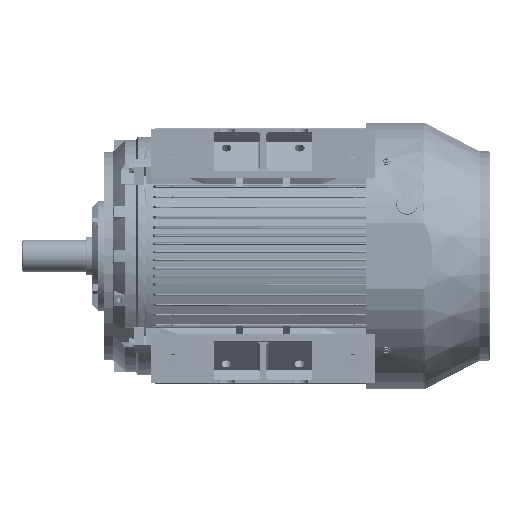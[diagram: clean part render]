
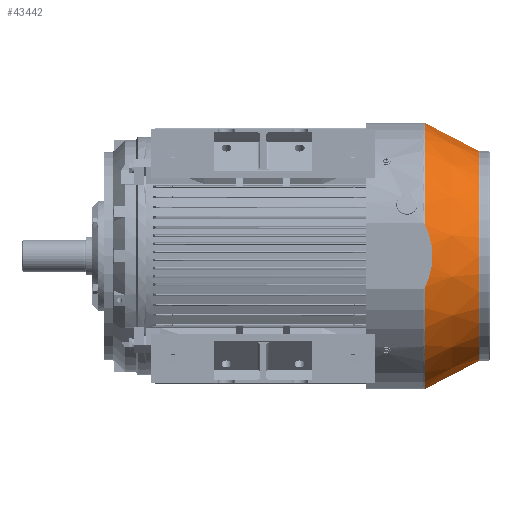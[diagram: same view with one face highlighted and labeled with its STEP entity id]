
A CAD part, front view. The second image highlights one B-rep face of the part: STEP entity #43442.
In plain terms, the highlighted conical face has half-angle 27.379 degrees and reference radius 180.336 mm.
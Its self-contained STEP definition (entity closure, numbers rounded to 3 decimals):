
#34585 = ORIENTED_EDGE ( 'NONE', *, *, #41881, .T. ) ;
#41714 = EDGE_CURVE ( 'NONE', #41722, #41726, #91950, .T. ) ;
#41722 = VERTEX_POINT ( 'NONE', #91938 ) ;
#41726 = VERTEX_POINT ( 'NONE', #91919 ) ;
#41831 = EDGE_CURVE ( 'NONE', #41722, #41833, #92300, .T. ) ;
#41833 = VERTEX_POINT ( 'NONE', #92287 ) ;
#41863 = VERTEX_POINT ( 'NONE', #92224 ) ;
#41881 = EDGE_CURVE ( 'NONE', #41726, #41863, #92352, .T. ) ;
#41978 = EDGE_CURVE ( 'NONE', #41982, #41863, #92620, .T. ) ;
#41982 = VERTEX_POINT ( 'NONE', #92612 ) ;
#43442 = ADVANCED_FACE ( 'NONE', ( #96238 ), #96234, .T. ) ;
#43443 = EDGE_LOOP ( 'NONE', ( #43453, #43458, #34585, #43720, #43507, #43521 ) ) ;
#43453 = ORIENTED_EDGE ( 'NONE', *, *, #41831, .F. ) ;
#43458 = ORIENTED_EDGE ( 'NONE', *, *, #41714, .T. ) ;
#43507 = ORIENTED_EDGE ( 'NONE', *, *, #43510, .T. ) ;
#43510 = EDGE_CURVE ( 'NONE', #41982, #43614, #96303, .T. ) ;
#43521 = ORIENTED_EDGE ( 'NONE', *, *, #43611, .F. ) ;
#43611 = EDGE_CURVE ( 'NONE', #41833, #43614, #96510, .T. ) ;
#43614 = VERTEX_POINT ( 'NONE', #96499 ) ;
#43720 = ORIENTED_EDGE ( 'NONE', *, *, #41978, .F. ) ;
#91919 = CARTESIAN_POINT ( 'NONE',  ( 180.336, 0., -194.351 ) ) ;
#91938 = CARTESIAN_POINT ( 'NONE',  ( -180.336, 0., -194.351 ) ) ;
#91942 = DIRECTION ( 'NONE',  ( 1., 0., 0. ) ) ;
#91945 = DIRECTION ( 'NONE',  ( 0., 0., 1. ) ) ;
#91947 = CARTESIAN_POINT ( 'NONE',  ( 0., 0., -194.351 ) ) ;
#91948 = AXIS2_PLACEMENT_3D ( 'NONE', #91947, #91945, #91942 ) ;
#91950 = CIRCLE ( 'NONE', #91948, 180.336 ) ;
#92224 = CARTESIAN_POINT ( 'NONE',  ( 228.416, 0., -101.514 ) ) ;
#92287 = CARTESIAN_POINT ( 'NONE',  ( -228.416, 0., -101.514 ) ) ;
#92290 = DIRECTION ( 'NONE',  ( -0.46, 0., 0.888 ) ) ;
#92293 = VECTOR ( 'NONE', #92290, 1000. ) ;
#92297 = CARTESIAN_POINT ( 'NONE',  ( -180.336, 0., -194.351 ) ) ;
#92300 = LINE ( 'NONE', #92297, #92293 ) ;
#92347 = DIRECTION ( 'NONE',  ( 0.46, 0., 0.888 ) ) ;
#92348 = VECTOR ( 'NONE', #92347, 1000. ) ;
#92350 = CARTESIAN_POINT ( 'NONE',  ( 180.336, 0., -194.351 ) ) ;
#92352 = LINE ( 'NONE', #92350, #92348 ) ;
#92612 = CARTESIAN_POINT ( 'NONE',  ( 53.757, -222., -101.514 ) ) ;
#92613 = DIRECTION ( 'NONE',  ( 1., 0., 0. ) ) ;
#92615 = DIRECTION ( 'NONE',  ( 0., 0., 1. ) ) ;
#92617 = CARTESIAN_POINT ( 'NONE',  ( 0., 0., -101.514 ) ) ;
#92619 = AXIS2_PLACEMENT_3D ( 'NONE', #92617, #92615, #92613 ) ;
#92620 = CIRCLE ( 'NONE', #92619, 228.416 ) ;
#96221 = DIRECTION ( 'NONE',  ( 1., 0., 0. ) ) ;
#96223 = DIRECTION ( 'NONE',  ( 0., 0., 1. ) ) ;
#96225 = CARTESIAN_POINT ( 'NONE',  ( 0., 0., -194.351 ) ) ;
#96226 = AXIS2_PLACEMENT_3D ( 'NONE', #96225, #96223, #96221 ) ;
#96234 = CONICAL_SURFACE ( 'NONE', #96226, 180.336, 0.478 ) ;
#96238 = FACE_OUTER_BOUND ( 'NONE', #43443, .T. ) ;
#96297 = CARTESIAN_POINT ( 'NONE',  ( 51.654, -222., -102.47 ) ) ;
#96303 = B_SPLINE_CURVE_WITH_KNOTS ( 'NONE', 3,
 ( #96309, #96297, #96457, #96455, #96453, #96451, #96449, #96447, #96446, #96444, #96442, #96440, #96438, #96436, #96434, #96432, #96430, #96428, #96426, #96424, #96422, #96420, #96418, #96417, #96415, #96413, #96411 ),
 .UNSPECIFIED., .F., .F.,
 ( 4, 2, 2, 2, 2, 2, 2, 2, 2, 2, 1, 2, 2, 4 ),
 ( 0.226, 0.233, 0.237, 0.24, 0.254, 0.267, 0.274, 0.278, 0.281, 0.309, 0.315, 0.319, 0.322, 0.336 ),
 .UNSPECIFIED. ) ;
#96309 = CARTESIAN_POINT ( 'NONE',  ( 53.757, -222., -101.514 ) ) ;
#96411 = CARTESIAN_POINT ( 'NONE',  ( -53.757, -222., -101.514 ) ) ;
#96413 = CARTESIAN_POINT ( 'NONE',  ( -49.57, -222., -103.417 ) ) ;
#96415 = CARTESIAN_POINT ( 'NONE',  ( -45.284, -222., -105.155 ) ) ;
#96417 = CARTESIAN_POINT ( 'NONE',  ( -39.776, -222., -107.081 ) ) ;
#96418 = CARTESIAN_POINT ( 'NONE',  ( -38.669, -222., -107.453 ) ) ;
#96420 = CARTESIAN_POINT ( 'NONE',  ( -36.454, -222., -108.167 ) ) ;
#96422 = CARTESIAN_POINT ( 'NONE',  ( -33.122, -222., -109.194 ) ) ;
#96424 = CARTESIAN_POINT ( 'NONE',  ( -29.768, -222., -110.087 ) ) ;
#96426 = CARTESIAN_POINT ( 'NONE',  ( -18.534, -222., -112.756 ) ) ;
#96428 = CARTESIAN_POINT ( 'NONE',  ( -9.377, -222., -113.901 ) ) ;
#96430 = CARTESIAN_POINT ( 'NONE',  ( 1.148, -222., -113.903 ) ) ;
#96432 = CARTESIAN_POINT ( 'NONE',  ( 2.317, -222., -113.885 ) ) ;
#96434 = CARTESIAN_POINT ( 'NONE',  ( 4.647, -222., -113.814 ) ) ;
#96436 = CARTESIAN_POINT ( 'NONE',  ( 5.808, -222., -113.762 ) ) ;
#96438 = CARTESIAN_POINT ( 'NONE',  ( 9.284, -222., -113.551 ) ) ;
#96440 = CARTESIAN_POINT ( 'NONE',  ( 11.588, -222., -113.342 ) ) ;
#96442 = CARTESIAN_POINT ( 'NONE',  ( 18.465, -222., -112.513 ) ) ;
#96444 = CARTESIAN_POINT ( 'NONE',  ( 23.001, -222., -111.694 ) ) ;
#96446 = CARTESIAN_POINT ( 'NONE',  ( 31.985, -222., -109.562 ) ) ;
#96447 = CARTESIAN_POINT ( 'NONE',  ( 36.432, -222., -108.249 ) ) ;
#96449 = CARTESIAN_POINT ( 'NONE',  ( 41.94, -222., -106.325 ) ) ;
#96451 = CARTESIAN_POINT ( 'NONE',  ( 43.038, -222., -105.927 ) ) ;
#96453 = CARTESIAN_POINT ( 'NONE',  ( 45.216, -222., -105.106 ) ) ;
#96455 = CARTESIAN_POINT ( 'NONE',  ( 46.299, -222., -104.684 ) ) ;
#96457 = CARTESIAN_POINT ( 'NONE',  ( 49.527, -222., -103.383 ) ) ;
#96491 = DIRECTION ( 'NONE',  ( 1., 0., 0. ) ) ;
#96493 = DIRECTION ( 'NONE',  ( 0., 0., 1. ) ) ;
#96495 = CARTESIAN_POINT ( 'NONE',  ( 0., 0., -101.514 ) ) ;
#96496 = AXIS2_PLACEMENT_3D ( 'NONE', #96495, #96493, #96491 ) ;
#96499 = CARTESIAN_POINT ( 'NONE',  ( -53.757, -222., -101.514 ) ) ;
#96510 = CIRCLE ( 'NONE', #96496, 228.416 ) ;
